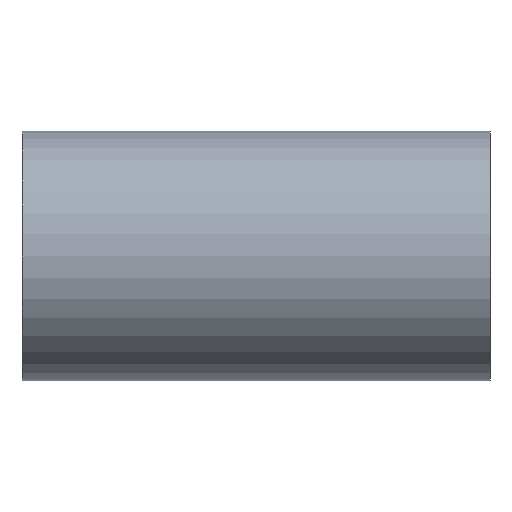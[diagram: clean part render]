
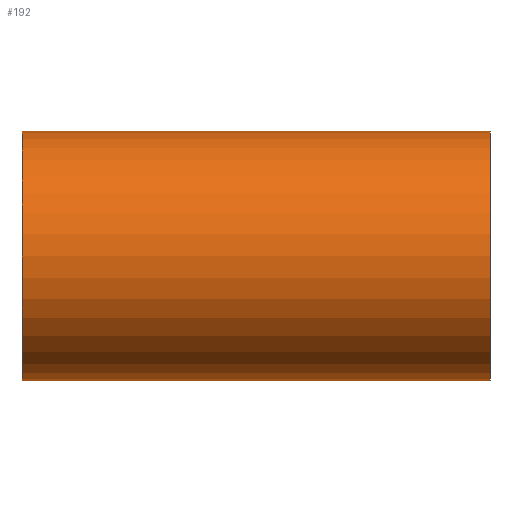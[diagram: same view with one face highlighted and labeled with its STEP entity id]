
A CAD part, front view. The second image highlights one B-rep face of the part: STEP entity #192.
In plain terms, the highlighted cylindrical face has radius 31.75 mm (diameter 63.5 mm), a partial arc.
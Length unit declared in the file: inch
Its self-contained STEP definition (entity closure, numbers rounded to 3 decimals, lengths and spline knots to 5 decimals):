
#7 = VERTEX_POINT ( 'NONE', #351 ) ;
#17 = EDGE_LOOP ( 'NONE', ( #168, #195, #247, #275, #392, #386 ) ) ;
#38 = DIRECTION ( 'NONE',  ( -1., 0., 0. ) ) ;
#43 = CIRCLE ( 'NONE', #326, 1.25 ) ;
#45 = LINE ( 'NONE', #123, #197 ) ;
#54 = DIRECTION ( 'NONE',  ( -1., 0., 0. ) ) ;
#58 = VECTOR ( 'NONE', #38, 39.37008 ) ;
#59 = CARTESIAN_POINT ( 'NONE',  ( 2.3435, 0., -1.25 ) ) ;
#65 = VERTEX_POINT ( 'NONE', #182 ) ;
#69 = CARTESIAN_POINT ( 'NONE',  ( 0., 0., -1.25 ) ) ;
#77 = CIRCLE ( 'NONE', #330, 1.25 ) ;
#79 = CYLINDRICAL_SURFACE ( 'NONE', #341, 1.25 ) ;
#81 = LINE ( 'NONE', #59, #58 ) ;
#123 = CARTESIAN_POINT ( 'NONE',  ( 2.3435, 0., 1.25 ) ) ;
#129 = DIRECTION ( 'NONE',  ( -1., 0., 0. ) ) ;
#130 = CARTESIAN_POINT ( 'NONE',  ( 2.3435, 0., -1.25 ) ) ;
#168 = ORIENTED_EDGE ( 'NONE', *, *, #389, .F. ) ;
#172 = LINE ( 'NONE', #185, #283 ) ;
#176 = FACE_OUTER_BOUND ( 'NONE', #17, .T. ) ;
#182 = CARTESIAN_POINT ( 'NONE',  ( -2.3435, 0., -1.25 ) ) ;
#185 = CARTESIAN_POINT ( 'NONE',  ( 2.3435, 0., 1.25 ) ) ;
#186 = CARTESIAN_POINT ( 'NONE',  ( 2.3435, 0., -1.25 ) ) ;
#189 = DIRECTION ( 'NONE',  ( -1., 0., 0. ) ) ;
#192 = ADVANCED_FACE ( 'NONE', ( #176 ), #79, .T. ) ;
#194 = VERTEX_POINT ( 'NONE', #442 ) ;
#195 = ORIENTED_EDGE ( 'NONE', *, *, #337, .F. ) ;
#197 = VECTOR ( 'NONE', #263, 39.37008 ) ;
#216 = DIRECTION ( 'NONE',  ( 1., 0., 0. ) ) ;
#224 = VERTEX_POINT ( 'NONE', #69 ) ;
#225 = DIRECTION ( 'NONE',  ( 0., 0., 1. ) ) ;
#247 = ORIENTED_EDGE ( 'NONE', *, *, #379, .T. ) ;
#248 = VECTOR ( 'NONE', #129, 39.37008 ) ;
#256 = CARTESIAN_POINT ( 'NONE',  ( -2.3435, 0., 0. ) ) ;
#262 = CARTESIAN_POINT ( 'NONE',  ( 2.3435, 0., 0. ) ) ;
#263 = DIRECTION ( 'NONE',  ( -1., 0., 0. ) ) ;
#270 = CARTESIAN_POINT ( 'NONE',  ( 2.3435, 0., 0. ) ) ;
#275 = ORIENTED_EDGE ( 'NONE', *, *, #412, .T. ) ;
#283 = VECTOR ( 'NONE', #54, 39.37008 ) ;
#293 = DIRECTION ( 'NONE',  ( 0., 0., -1. ) ) ;
#306 = VERTEX_POINT ( 'NONE', #186 ) ;
#320 = VERTEX_POINT ( 'NONE', #324 ) ;
#324 = CARTESIAN_POINT ( 'NONE',  ( 0., 0., 1.25 ) ) ;
#326 = AXIS2_PLACEMENT_3D ( 'NONE', #270, #216, #293 ) ;
#330 = AXIS2_PLACEMENT_3D ( 'NONE', #256, #331, #402 ) ;
#331 = DIRECTION ( 'NONE',  ( 1., 0., 0. ) ) ;
#337 = EDGE_CURVE ( 'NONE', #7, #306, #43, .T. ) ;
#341 = AXIS2_PLACEMENT_3D ( 'NONE', #262, #189, #225 ) ;
#351 = CARTESIAN_POINT ( 'NONE',  ( 2.3435, 0., 1.25 ) ) ;
#365 = LINE ( 'NONE', #130, #248 ) ;
#366 = EDGE_CURVE ( 'NONE', #194, #65, #77, .T. ) ;
#379 = EDGE_CURVE ( 'NONE', #7, #320, #172, .T. ) ;
#386 = ORIENTED_EDGE ( 'NONE', *, *, #388, .F. ) ;
#388 = EDGE_CURVE ( 'NONE', #224, #65, #365, .T. ) ;
#389 = EDGE_CURVE ( 'NONE', #306, #224, #81, .T. ) ;
#392 = ORIENTED_EDGE ( 'NONE', *, *, #366, .T. ) ;
#402 = DIRECTION ( 'NONE',  ( 0., 0., -1. ) ) ;
#412 = EDGE_CURVE ( 'NONE', #320, #194, #45, .T. ) ;
#442 = CARTESIAN_POINT ( 'NONE',  ( -2.3435, 0., 1.25 ) ) ;
